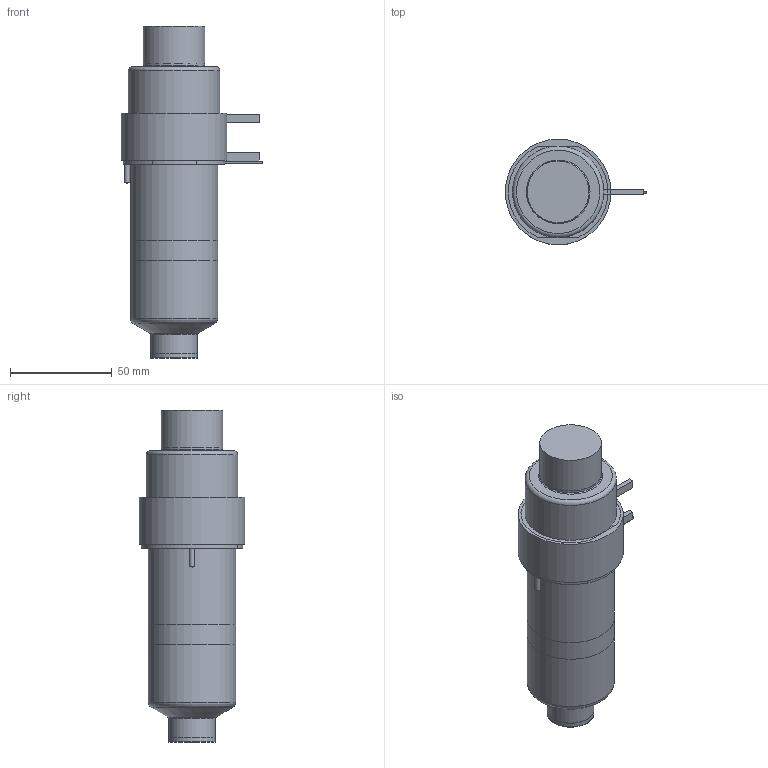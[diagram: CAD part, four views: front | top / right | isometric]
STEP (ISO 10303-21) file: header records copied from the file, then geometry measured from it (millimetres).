
FILE_DESCRIPTION(/* description */ (''),/* implementation_level */ '2;1');
FILE_NAME(/* name */ 'SXTBN-SXIBN-SXOBN27095_250C_b',/* time_stamp */ '2007-01-24T17:16:56+13:00',/* author */ (''),/* organization */ (''),/* preprocessor_version */ 'ST-DEVELOPER v9',/* originating_system */ 'UGS - NX 4.0',/* authorisation */ '');
FILE_SCHEMA (('CONFIG_CONTROL_DESIGN'));
Length unit declared in the file: millimetre
Products named in the file (1): SXTBN-SXIBN-SXOBN27095_250C_b
Bounding box: 69.6 x 52 x 163.51 mm (x, y, z)
Volume: 407339.5 mm3; surface area: 51858.9 mm2
Topology: 7 solids, 7 shells, 92 faces, 181 edges, 117 vertices
Faces by surface type: plane 43, cylinder 28, torus 10, cone 10, bspline 1
Full cylindrical faces by diameter (mm): 1 x3, 2 x1, 2.5 x2, 12 x1, 22.61 x1, 23.01 x2, 27.5 x1, 30 x1, 30.4 x1, 38.1 x2, 43 x2, 45 x1, 50 x1, 52 x1
Entity records: 2377 total; most frequent: CARTESIAN_POINT 543, DIRECTION 384, ORIENTED_EDGE 278, AXIS2_PLACEMENT_3D 167, EDGE_LOOP 140, EDGE_CURVE 139, VERTEX_POINT 110, ADVANCED_FACE 92
